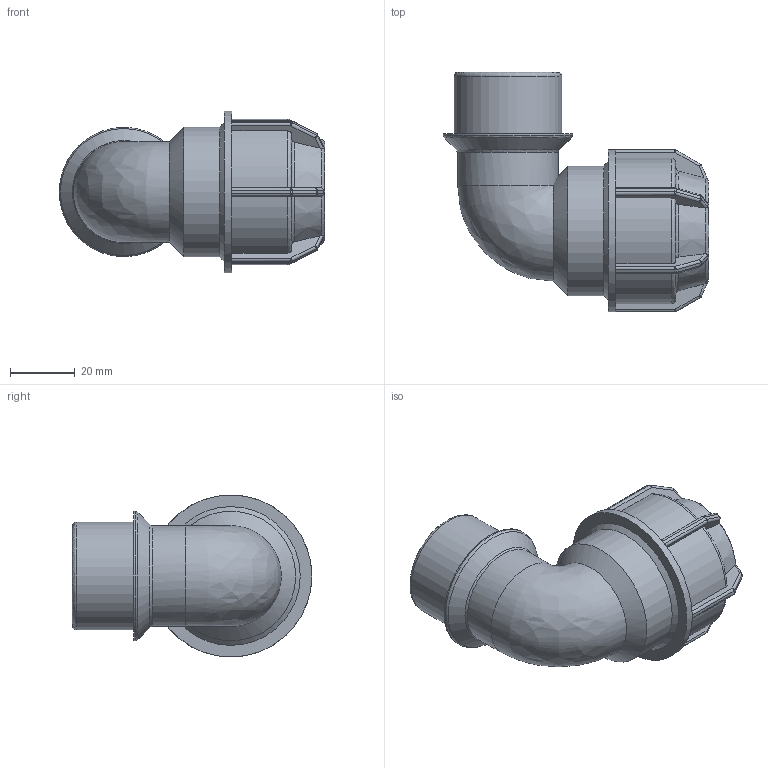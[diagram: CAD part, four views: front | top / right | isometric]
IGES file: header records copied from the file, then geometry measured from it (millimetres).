
Global section: file name: 148500025010.ipt; native system: Autodesk Inventor 2015; preprocessor: unknown; author: KIM; date: 20180409.131245; units: millimetre
Bounding box: 81.95 x 74 x 50 mm (x, y, z)
Volume: 64561.1 mm3; surface area: 23807.5 mm2
Topology: 1 solids, 1 shells, 214 faces, 515 edges, 300 vertices
Faces by surface type: plane 99, cylinder 59, sphere 24, revolution 22, cone 9, bspline 1
Full cylindrical faces by diameter (mm): 31.088 x1, 33.249 x1, 39.899 x1, 40 x1, 50 x1
